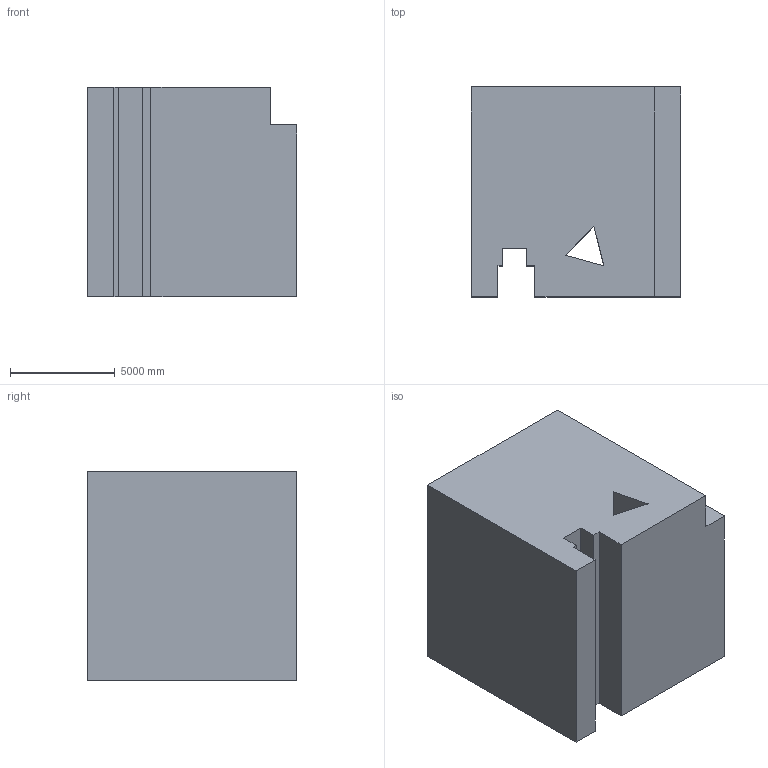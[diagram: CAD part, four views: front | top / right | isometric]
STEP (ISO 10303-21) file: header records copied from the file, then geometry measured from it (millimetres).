
FILE_DESCRIPTION (( 'STEP AP203' ), '1' );
FILE_NAME ('967.STEP', '2022-07-29T14:46:41', ( 'user' ), ( '' ), 'SwSTEP 2.0', 'SolidWorks 2021', '' );
FILE_SCHEMA (( 'CONFIG_CONTROL_DESIGN' ));
Length unit declared in the file: centimetre
Products named in the file (1): 967
Bounding box: 10000 x 10000 x 10000 mm (x, y, z)
Volume: 881035204316.9 mm3; surface area: 778889651.6 mm2
Topology: 1 solids, 1 shells, 45 faces, 124 edges, 82 vertices
Faces by surface type: plane 38, cylinder 7
Entity records: 1663 total; most frequent: CARTESIAN_POINT 414, ORIENTED_EDGE 248, DIRECTION 231, EDGE_CURVE 124, VECTOR 107, LINE 107, VERTEX_POINT 82, AXIS2_PLACEMENT_3D 62
